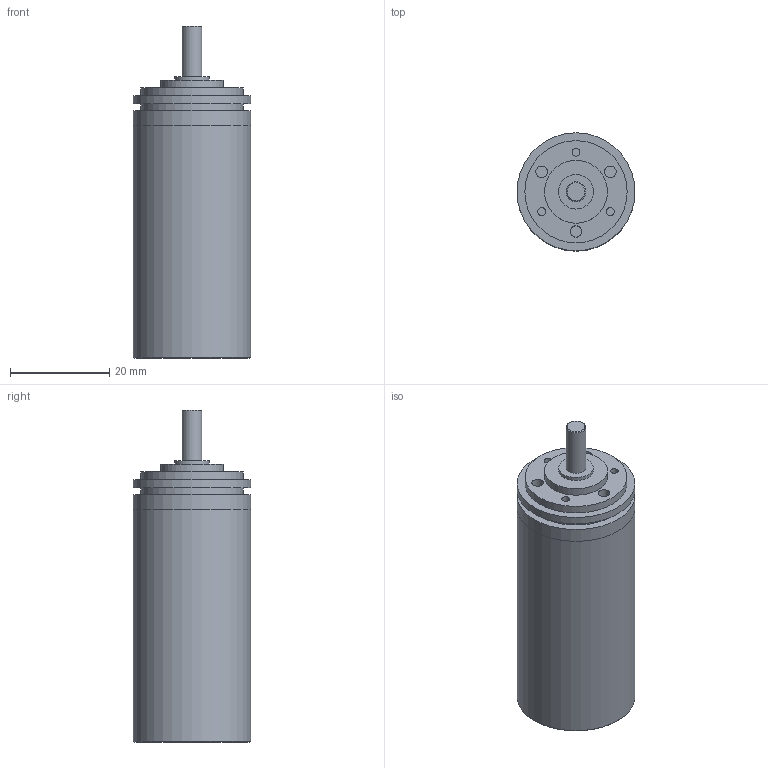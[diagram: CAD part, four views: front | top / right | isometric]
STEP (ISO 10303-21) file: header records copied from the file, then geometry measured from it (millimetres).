
FILE_DESCRIPTION(/* description */ (''),/* implementation_level */ '2;1');
FILE_NAME(/* name */ '22-2K_5.stp',/* time_stamp */ '2016-08-26T11:30:34+02:00',/* author */ ('DR. FRITZ FAULHABER GmbH & Co. KG'),/* organization */ ('DR. FRITZ FAULHABER GmbH & Co. KG'),/* preprocessor_version */ 'ST-DEVELOPER v16',/* originating_system */ 'SIEMENS PLM Software NX 10.0',/* authorisation */ '');
FILE_SCHEMA (('AUTOMOTIVE_DESIGN { 1 0 10303 214 3 1 1 1 }'));
Length unit declared in the file: millimetre
Products named in the file (1): H00000845_A
Bounding box: 23.8 x 23.8 x 67 mm (x, y, z)
Volume: 16346.6 mm3; surface area: 7036 mm2
Topology: 1 solids, 1 shells, 42 faces, 65 edges, 43 vertices
Faces by surface type: plane 20, cylinder 19, cone 3
Full cylindrical faces by diameter (mm): 1.6 x3, 2.329 x3, 3.5 x1, 4 x1, 4.5 x1, 7 x2, 12.7 x1, 20.63 x2, 22 x1, 23.79 x1, 23.8 x3
Entity records: 858 total; most frequent: DIRECTION 168, CARTESIAN_POINT 125, AXIS2_PLACEMENT_3D 84, EDGE_LOOP 82, ORIENTED_EDGE 82, FACE_BOUND 74, ADVANCED_FACE 42, VERTEX_POINT 41
